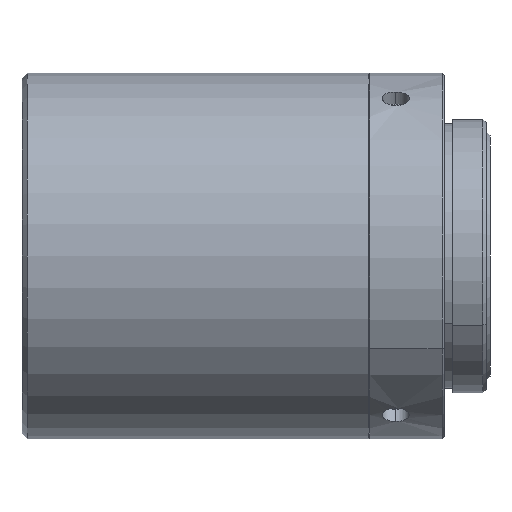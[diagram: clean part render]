
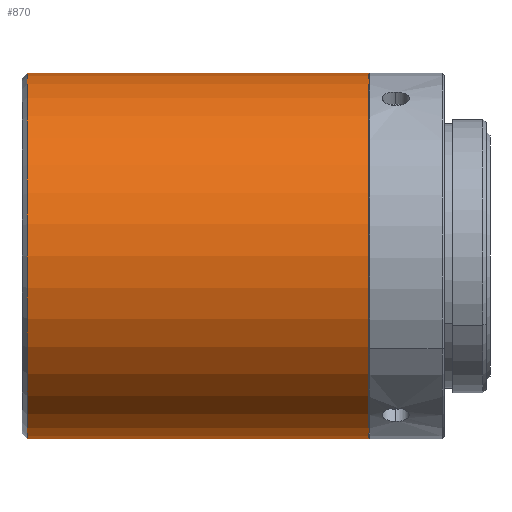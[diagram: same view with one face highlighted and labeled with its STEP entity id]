
A CAD part, front view. The second image highlights one B-rep face of the part: STEP entity #870.
In plain terms, the highlighted cylindrical face has radius 17 mm (diameter 34 mm), a partial arc.
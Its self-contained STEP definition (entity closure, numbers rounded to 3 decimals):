
#80 = ORIENTED_EDGE ( 'NONE', *, *, #946, .T. ) ;
#133 = EDGE_CURVE ( 'NONE', #439, #1241, #904, .T. ) ;
#149 = CIRCLE ( 'NONE', #453, 17. ) ;
#174 = DIRECTION ( 'NONE',  ( 0., 0., -1. ) ) ;
#292 = DIRECTION ( 'NONE',  ( 1., 0., 0. ) ) ;
#371 = DIRECTION ( 'NONE',  ( 0., 0., 1. ) ) ;
#374 = AXIS2_PLACEMENT_3D ( 'NONE', #866, #292, #174 ) ;
#439 = VERTEX_POINT ( 'NONE', #598 ) ;
#453 = AXIS2_PLACEMENT_3D ( 'NONE', #1202, #1428, #1425 ) ;
#576 = CARTESIAN_POINT ( 'NONE',  ( 0.5, 0., 17. ) ) ;
#598 = CARTESIAN_POINT ( 'NONE',  ( 32.24, 0., 17. ) ) ;
#627 = CARTESIAN_POINT ( 'NONE',  ( 0., 0., 0. ) ) ;
#655 = VERTEX_POINT ( 'NONE', #1483 ) ;
#672 = VERTEX_POINT ( 'NONE', #994 ) ;
#677 = EDGE_CURVE ( 'NONE', #672, #655, #1104, .T. ) ;
#766 = CIRCLE ( 'NONE', #374, 17. ) ;
#774 = ORIENTED_EDGE ( 'NONE', *, *, #677, .F. ) ;
#818 = DIRECTION ( 'NONE',  ( -1., 0., 0. ) ) ;
#834 = FACE_OUTER_BOUND ( 'NONE', #933, .T. ) ;
#866 = CARTESIAN_POINT ( 'NONE',  ( 0.5, 0., 0. ) ) ;
#870 = ADVANCED_FACE ( 'NONE', ( #834 ), #1459, .T. ) ;
#891 = CARTESIAN_POINT ( 'NONE',  ( 0., 0., -17. ) ) ;
#896 = ORIENTED_EDGE ( 'NONE', *, *, #133, .T. ) ;
#904 = LINE ( 'NONE', #1183, #937 ) ;
#926 = EDGE_CURVE ( 'NONE', #1241, #655, #766, .T. ) ;
#933 = EDGE_LOOP ( 'NONE', ( #774, #80, #896, #1039 ) ) ;
#937 = VECTOR ( 'NONE', #818, 1000. ) ;
#946 = EDGE_CURVE ( 'NONE', #672, #439, #149, .T. ) ;
#994 = CARTESIAN_POINT ( 'NONE',  ( 32.24, 0., -17. ) ) ;
#1039 = ORIENTED_EDGE ( 'NONE', *, *, #926, .T. ) ;
#1069 = AXIS2_PLACEMENT_3D ( 'NONE', #627, #1297, #371 ) ;
#1071 = VECTOR ( 'NONE', #1356, 1000. ) ;
#1104 = LINE ( 'NONE', #891, #1071 ) ;
#1183 = CARTESIAN_POINT ( 'NONE',  ( 0., 0., 17. ) ) ;
#1202 = CARTESIAN_POINT ( 'NONE',  ( 32.24, 0., 0. ) ) ;
#1241 = VERTEX_POINT ( 'NONE', #576 ) ;
#1297 = DIRECTION ( 'NONE',  ( -1., 0., 0. ) ) ;
#1356 = DIRECTION ( 'NONE',  ( -1., 0., 0. ) ) ;
#1425 = DIRECTION ( 'NONE',  ( 0., 0., 1. ) ) ;
#1428 = DIRECTION ( 'NONE',  ( -1., 0., 0. ) ) ;
#1459 = CYLINDRICAL_SURFACE ( 'NONE', #1069, 17. ) ;
#1483 = CARTESIAN_POINT ( 'NONE',  ( 0.5, 0., -17. ) ) ;
